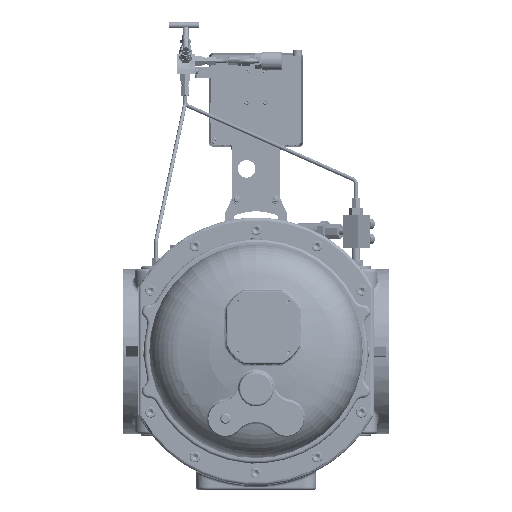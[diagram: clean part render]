
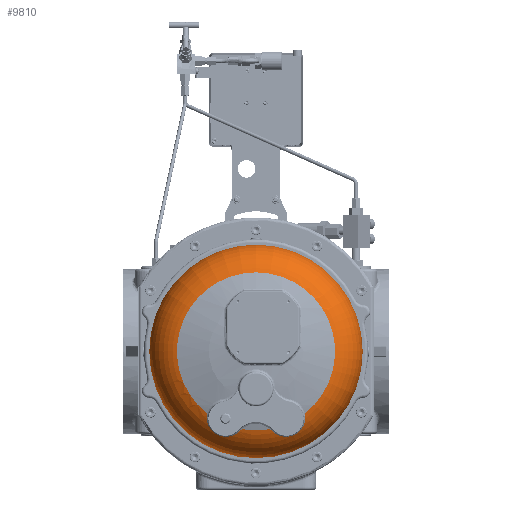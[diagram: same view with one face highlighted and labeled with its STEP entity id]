
A CAD part, left-side view. The second image highlights one B-rep face of the part: STEP entity #9810.
In plain terms, the highlighted toroidal (fillet/blend) face has major radius 113.213 mm and minor radius 67.949 mm.
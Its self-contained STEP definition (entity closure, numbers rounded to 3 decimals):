
#9810=ADVANCED_FACE('',(#128317,#128319),#128321,.T.);
#128317=FACE_OUTER_BOUND('',#128318,.T.);
#128318=EDGE_LOOP('',(#218371));
#128319=FACE_BOUND('',#128320,.T.);
#128320=EDGE_LOOP('',(#218372,#218373,#218374,#218375,#218376,#218377,#218378));
#128321=TOROIDAL_SURFACE('',#128322,113.213,67.949);
#128322=AXIS2_PLACEMENT_3D('',#128323,#128324,#128325);
#128323=CARTESIAN_POINT('',(-481.309,0.,0.));
#128324=DIRECTION('',(-1.,0.,0.));
#128325=DIRECTION('',(0.,0.,1.));
#218371=ORIENTED_EDGE('',*,*,#290658,.F.);
#218372=ORIENTED_EDGE('',*,*,#290696,.T.);
#218373=ORIENTED_EDGE('',*,*,#290697,.F.);
#218374=ORIENTED_EDGE('',*,*,#290698,.F.);
#218375=ORIENTED_EDGE('',*,*,#290699,.T.);
#218376=ORIENTED_EDGE('',*,*,#290700,.T.);
#218377=ORIENTED_EDGE('',*,*,#290701,.F.);
#218378=ORIENTED_EDGE('',*,*,#290702,.T.);
#290658=EDGE_CURVE('',#324709,#324709,#324710,.F.);
#290696=EDGE_CURVE('',#324779,#324780,#324781,.F.);
#290697=EDGE_CURVE('',#324782,#324780,#324783,.T.);
#290698=EDGE_CURVE('',#324784,#324782,#324785,.T.);
#290699=EDGE_CURVE('',#324784,#324786,#324787,.F.);
#290700=EDGE_CURVE('',#324786,#324788,#324789,.F.);
#290701=EDGE_CURVE('',#324790,#324788,#324791,.T.);
#290702=EDGE_CURVE('',#324790,#324779,#324792,.T.);
#324709=VERTEX_POINT('',#392854);
#324710=CIRCLE('',#392855,181.);
#324779=VERTEX_POINT('',#393284);
#324780=VERTEX_POINT('',#393285);
#324781=B_SPLINE_CURVE_WITH_KNOTS('',3,
(#393286,#393287,#393288,#393289,#393290,#393291,#393292,#393293,#393294,#393295,
#393296,#393297,#393298,#393299,#393300,#393301,#393302,#393303,#393304,#393305,
#393306,#393307,#393308,#393309,#393310,#393311,#393312),
.UNSPECIFIED.,.F.,.F.,
(4,1,1,1,1,1,1,1,1,1,1,1,1,1,1,1,1,1,1,1,1,1,1,1,4),
(0.,0.067,0.125,0.179,0.233,0.284,
0.328,0.368,0.407,0.443,0.478,
0.51,0.539,0.564,0.593,0.624,
0.66,0.698,0.743,0.79,0.842,
0.89,0.934,0.969,1.),
.UNSPECIFIED.);
#324782=VERTEX_POINT('',#393313);
#324783=CIRCLE('',#393314,134.);
#324784=VERTEX_POINT('',#393318);
#324785=CIRCLE('',#393319,134.);
#324786=VERTEX_POINT('',#393323);
#324787=B_SPLINE_CURVE_WITH_KNOTS('',3,
(#393324,#393325,#393326,#393327,#393328,#393329,#393330,#393331,#393332,#393333,
#393334,#393335,#393336,#393337,#393338,#393339,#393340,#393341,#393342,#393343,
#393344,#393345,#393346,#393347,#393348,#393349),
.UNSPECIFIED.,.F.,.F.,
(4,1,1,1,1,1,1,1,1,1,1,1,1,1,1,1,1,1,1,1,1,1,1,4),
(0.,0.074,0.138,0.188,0.237,0.28,
0.321,0.358,0.395,0.428,0.457,
0.481,0.506,0.533,0.565,0.601,
0.638,0.68,0.724,0.774,0.824,
0.875,0.934,1.),
.UNSPECIFIED.);
#324788=VERTEX_POINT('',#393350);
#324789=B_SPLINE_CURVE_WITH_KNOTS('',3,
(#393351,#393352,#393353,#393354,#393355,#393356),
.UNSPECIFIED.,.F.,.F.,
(4,1,1,4),
(0.,0.333,0.667,1.),
.UNSPECIFIED.);
#324790=VERTEX_POINT('',#393357);
#324791=CIRCLE('',#393358,134.);
#324792=B_SPLINE_CURVE_WITH_KNOTS('',3,
(#393362,#393363,#393364,#393365,#393366,#393367,#393368),
.UNSPECIFIED.,.F.,.F.,
(4,1,1,1,4),
(0.,0.333,0.667,0.889,1.),
.UNSPECIFIED.);
#392854=CARTESIAN_POINT('',(-486.,0.,181.));
#392855=AXIS2_PLACEMENT_3D('',#392856,#392857,#392858);
#392856=CARTESIAN_POINT('',(-486.,0.,0.));
#392857=DIRECTION('',(-1.,0.,0.));
#392858=DIRECTION('',(0.,0.,1.));
#393284=CARTESIAN_POINT('',(-544.921,26.7,-134.475));
#393285=CARTESIAN_POINT('',(-546.,82.998,-105.202));
#393286=CARTESIAN_POINT('',(-546.,82.998,-105.202));
#393287=CARTESIAN_POINT('',(-545.452,83.417,-107.041));
#393288=CARTESIAN_POINT('',(-544.342,83.861,-110.527));
#393289=CARTESIAN_POINT('',(-542.615,83.676,-115.479));
#393290=CARTESIAN_POINT('',(-540.969,82.841,-119.986));
#393291=CARTESIAN_POINT('',(-539.415,81.453,-124.158));
#393292=CARTESIAN_POINT('',(-538.022,79.604,-127.931));
#393293=CARTESIAN_POINT('',(-536.878,77.496,-131.157));
#393294=CARTESIAN_POINT('',(-535.974,75.242,-133.897));
#393295=CARTESIAN_POINT('',(-535.28,72.863,-136.25));
#393296=CARTESIAN_POINT('',(-534.778,70.344,-138.292));
#393297=CARTESIAN_POINT('',(-534.473,67.796,-139.986));
#393298=CARTESIAN_POINT('',(-534.344,65.294,-141.346));
#393299=CARTESIAN_POINT('',(-534.358,62.939,-142.39));
#393300=CARTESIAN_POINT('',(-534.484,60.614,-143.224));
#393301=CARTESIAN_POINT('',(-534.725,58.171,-143.905));
#393302=CARTESIAN_POINT('',(-535.126,55.399,-144.448));
#393303=CARTESIAN_POINT('',(-535.716,52.317,-144.771));
#393304=CARTESIAN_POINT('',(-536.537,48.875,-144.793));
#393305=CARTESIAN_POINT('',(-537.589,45.179,-144.418));
#393306=CARTESIAN_POINT('',(-538.882,41.238,-143.54));
#393307=CARTESIAN_POINT('',(-540.302,37.387,-142.151));
#393308=CARTESIAN_POINT('',(-541.726,33.854,-140.338));
#393309=CARTESIAN_POINT('',(-542.98,30.931,-138.374));
#393310=CARTESIAN_POINT('',(-544.038,28.592,-136.407));
#393311=CARTESIAN_POINT('',(-544.643,27.275,-135.114));
#393312=CARTESIAN_POINT('',(-544.921,26.7,-134.475));
#393313=CARTESIAN_POINT('',(-546.,0.,134.));
#393314=AXIS2_PLACEMENT_3D('',#393315,#393316,#393317);
#393315=CARTESIAN_POINT('',(-546.,0.,0.));
#393316=DIRECTION('',(-1.,0.,0.));
#393317=DIRECTION('',(0.,0.,1.));
#393318=CARTESIAN_POINT('',(-546.,-82.998,-105.202));
#393319=AXIS2_PLACEMENT_3D('',#393320,#393321,#393322);
#393320=CARTESIAN_POINT('',(-546.,0.,0.));
#393321=DIRECTION('',(-1.,0.,0.));
#393322=DIRECTION('',(0.,-0.619,-0.785));
#393323=CARTESIAN_POINT('',(-544.921,-26.7,-134.475));
#393324=CARTESIAN_POINT('',(-544.921,-26.7,-134.475));
#393325=CARTESIAN_POINT('',(-544.258,-28.073,-136.001));
#393326=CARTESIAN_POINT('',(-542.953,-30.963,-138.525));
#393327=CARTESIAN_POINT('',(-541.08,-35.399,-141.242));
#393328=CARTESIAN_POINT('',(-539.477,-39.579,-143.008));
#393329=CARTESIAN_POINT('',(-538.15,-43.41,-144.081));
#393330=CARTESIAN_POINT('',(-537.015,-47.13,-144.663));
#393331=CARTESIAN_POINT('',(-536.104,-50.606,-144.826));
#393332=CARTESIAN_POINT('',(-535.384,-53.946,-144.64));
#393333=CARTESIAN_POINT('',(-534.866,-57.058,-144.162));
#393334=CARTESIAN_POINT('',(-534.539,-59.895,-143.453));
#393335=CARTESIAN_POINT('',(-534.38,-62.349,-142.619));
#393336=CARTESIAN_POINT('',(-534.341,-64.505,-141.709));
#393337=CARTESIAN_POINT('',(-534.398,-66.558,-140.678));
#393338=CARTESIAN_POINT('',(-534.567,-68.702,-139.409));
#393339=CARTESIAN_POINT('',(-534.893,-71.004,-137.788));
#393340=CARTESIAN_POINT('',(-535.407,-73.355,-135.796));
#393341=CARTESIAN_POINT('',(-536.131,-75.686,-133.401));
#393342=CARTESIAN_POINT('',(-537.065,-77.885,-130.619));
#393343=CARTESIAN_POINT('',(-538.23,-79.914,-127.364));
#393344=CARTESIAN_POINT('',(-539.581,-81.619,-123.714));
#393345=CARTESIAN_POINT('',(-541.066,-82.897,-119.721));
#393346=CARTESIAN_POINT('',(-542.66,-83.687,-115.352));
#393347=CARTESIAN_POINT('',(-544.361,-83.856,-110.467));
#393348=CARTESIAN_POINT('',(-545.462,-83.41,-107.01));
#393349=CARTESIAN_POINT('',(-546.,-82.998,-105.202));
#393350=CARTESIAN_POINT('',(-546.,-23.979,-131.837));
#393351=CARTESIAN_POINT('',(-546.,-23.979,-131.837));
#393352=CARTESIAN_POINT('',(-545.895,-24.304,-132.112));
#393353=CARTESIAN_POINT('',(-545.671,-24.929,-132.685));
#393354=CARTESIAN_POINT('',(-545.312,-25.84,-133.563));
#393355=CARTESIAN_POINT('',(-545.054,-26.417,-134.169));
#393356=CARTESIAN_POINT('',(-544.921,-26.7,-134.475));
#393357=CARTESIAN_POINT('',(-546.,23.979,-131.837));
#393358=AXIS2_PLACEMENT_3D('',#393359,#393360,#393361);
#393359=CARTESIAN_POINT('',(-546.,0.,0.));
#393360=DIRECTION('',(-1.,0.,0.));
#393361=DIRECTION('',(0.,0.179,-0.984));
#393362=CARTESIAN_POINT('',(-546.,23.979,-131.837));
#393363=CARTESIAN_POINT('',(-545.893,24.298,-132.118));
#393364=CARTESIAN_POINT('',(-545.672,24.932,-132.682));
#393365=CARTESIAN_POINT('',(-545.352,25.738,-133.466));
#393366=CARTESIAN_POINT('',(-545.097,26.321,-134.068));
#393367=CARTESIAN_POINT('',(-544.965,26.606,-134.373));
#393368=CARTESIAN_POINT('',(-544.921,26.7,-134.475));
